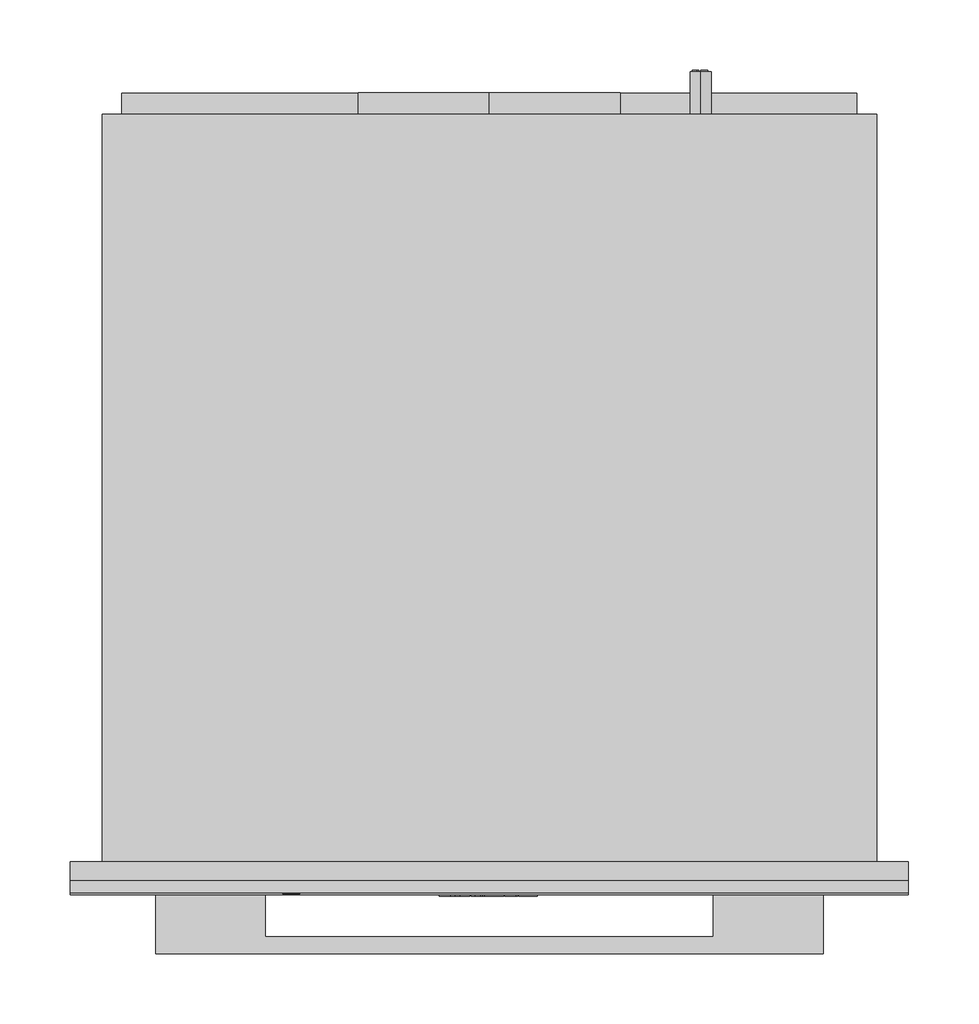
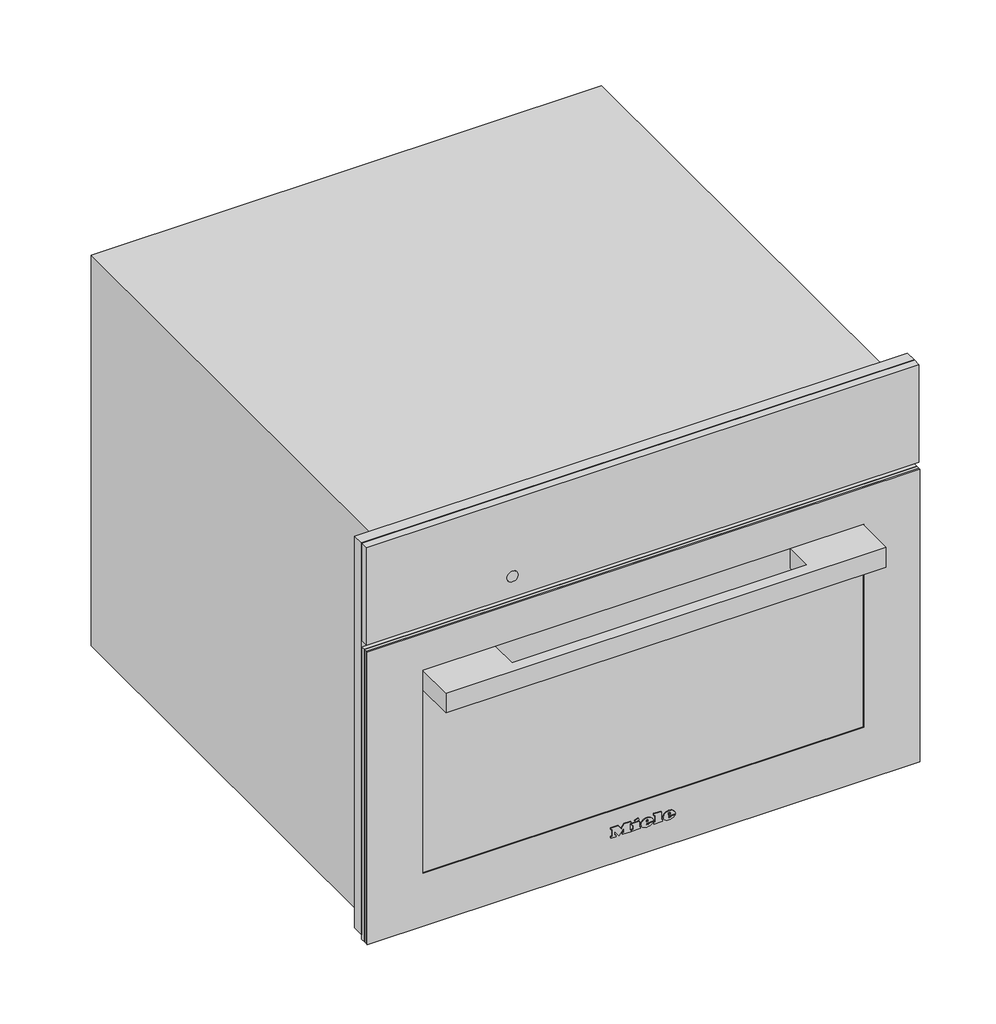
# Not in any storey: 1 proxy.
"""IFC4 building model written with IfcOpenShell, lengths in millimetres."""

from ifc_helpers import new_model, si_unit, origin, place, context, project, spatial, transform, mapped, element, save
from components import specialty_equipment_362e2358

model = new_model("IFC4")

# Units and contexts
model_context = context("Model", 3, world=origin())
ifc_project = project(units=[si_unit("LENGTHUNIT", "METRE", prefix="MILLI")], contexts=[model_context])

# Site, building
site = spatial("IfcSite", under=ifc_project)
building = spatial("IfcBuilding", under=site)

# Proxy
placement = place(None, origin())
specialty_equipment_shape = specialty_equipment_362e2358(model_context)
element("IfcBuildingElementProxy", 1, Name="11137800_NER_DG2740_EDST-CLST : 23274040_NER_11137800_DG2740_EDST-CLST", ObjectType="11137800_NER_DG2740_EDST-CLST : 23274040_NER_11137800_DG2740_EDST-CLST", at=placement, inside=building, context=model_context, shape_type="MappedRepresentation", body=[
    mapped(specialty_equipment_shape, transform((0.0, 0.0, 0.0), x_axis=(1.0, 0.0, 0.0), y_axis=(0.0, 1.0, 0.0), z_axis=(0.0, 0.0, 1.0))),
])

save(model, "model.ifc")
